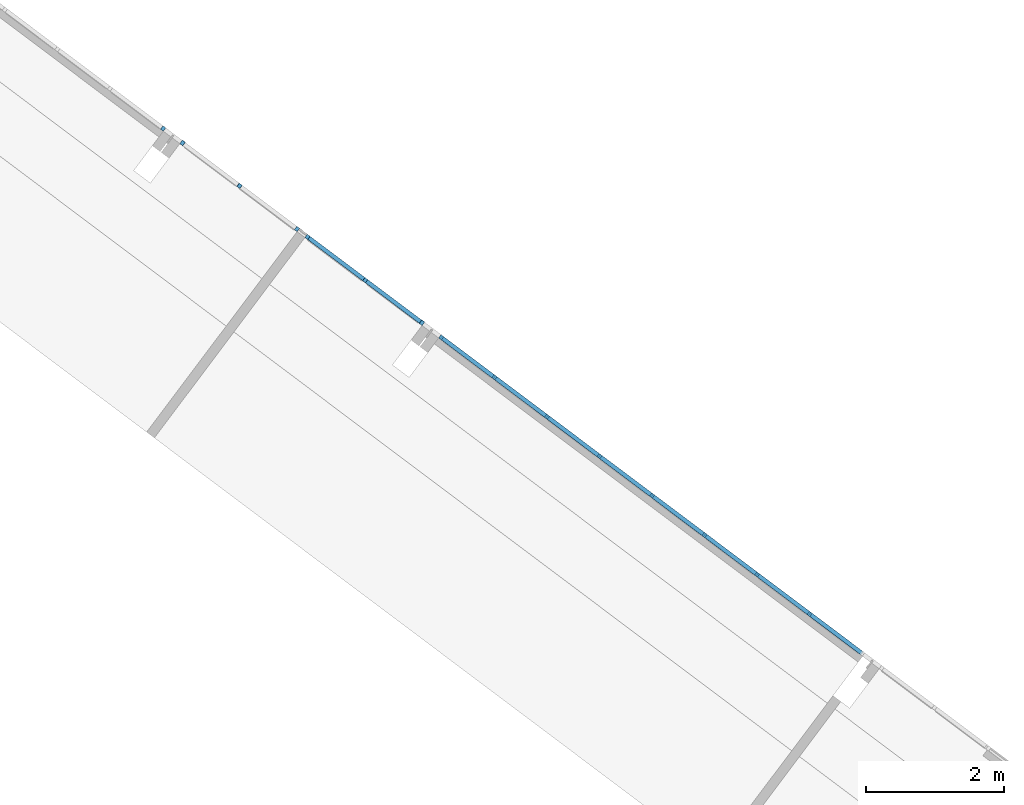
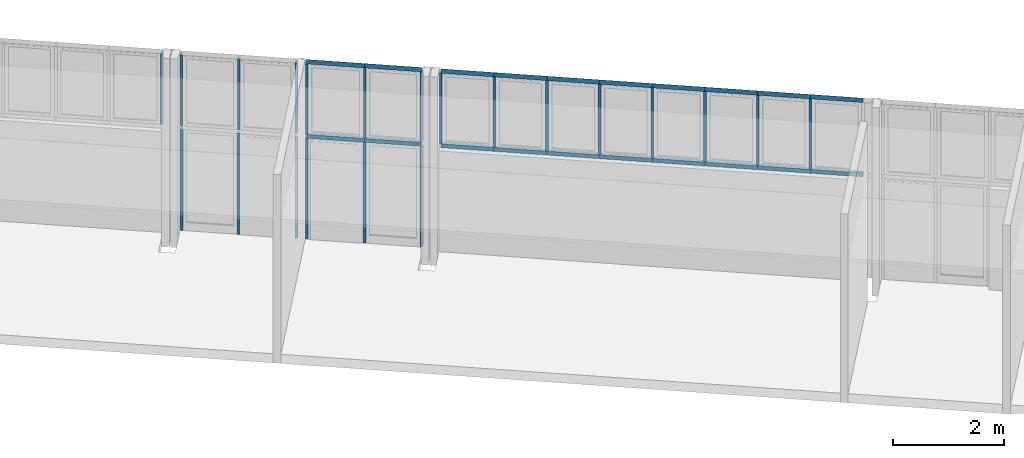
# One storey, part 1 of 18: 41 members, 3 elements without a shape of their own.
"""IFC2X3 building model written with IfcOpenShell, lengths in metres."""

from ifc_helpers import new_model, entity, si_unit, converted_unit, derived_unit, direction, frame, frame_2d, origin, origin_2d_with_axis, place, context, subcontext, project, spatial, polyline, rectangle, outline, extrude, source, transform, mapped, material, type_object, type_shapes, element, aggregate, save


model = new_model("IFC2X3")

# Units and contexts
model_context = context("Model", 3, precision=1e-05, world=origin(), true_north=direction((6.123031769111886e-17, 1.0)))
body_context = subcontext(model_context, "Body", "Model", "MODEL_VIEW")
ifc_project = project(units=[si_unit("LENGTHUNIT", "METRE"), si_unit("AREAUNIT", "SQUARE_METRE"), si_unit("VOLUMEUNIT", "CUBIC_METRE"), converted_unit("PLANEANGLEUNIT", "DEGREE", entity("IfcRatioMeasure", 0.017453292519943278), si_unit("PLANEANGLEUNIT", "RADIAN"), dimensions=[0, 0, 0, 0, 0, 0, 0]), si_unit("MASSUNIT", "GRAM", prefix="KILO"), derived_unit("MASSDENSITYUNIT", [(si_unit("MASSUNIT", "GRAM", prefix="KILO"), 1), (si_unit("LENGTHUNIT", "METRE"), -3)]), derived_unit("IONCONCENTRATIONUNIT", [(si_unit("MASSUNIT", "GRAM", prefix="KILO"), 1), (si_unit("LENGTHUNIT", "METRE"), -3)]), derived_unit("MOMENTOFINERTIAUNIT", [(si_unit("LENGTHUNIT", "METRE"), 4)]), si_unit("TIMEUNIT", "SECOND"), si_unit("FREQUENCYUNIT", "HERTZ"), si_unit("THERMODYNAMICTEMPERATUREUNIT", "DEGREE_CELSIUS"), derived_unit("THERMALTRANSMITTANCEUNIT", [(si_unit("MASSUNIT", "GRAM", prefix="KILO"), 1), (si_unit("THERMODYNAMICTEMPERATUREUNIT", "KELVIN"), -1), (si_unit("TIMEUNIT", "SECOND"), -3)]), derived_unit("THERMALCONDUCTANCEUNIT", [(si_unit("MASSUNIT", "GRAM", prefix="KILO"), 1), (si_unit("THERMODYNAMICTEMPERATUREUNIT", "KELVIN"), -1), (si_unit("TIMEUNIT", "SECOND"), -3), (si_unit("LENGTHUNIT", "METRE"), 1)]), derived_unit("VOLUMETRICFLOWRATEUNIT", [(si_unit("LENGTHUNIT", "METRE"), 3), (si_unit("TIMEUNIT", "SECOND"), -1)]), derived_unit("MASSFLOWRATEUNIT", [(si_unit("MASSUNIT", "GRAM", prefix="KILO"), 1), (si_unit("TIMEUNIT", "SECOND"), -1)]), derived_unit("ROTATIONALFREQUENCYUNIT", [(si_unit("TIMEUNIT", "SECOND"), -1)]), si_unit("ELECTRICCURRENTUNIT", "AMPERE"), si_unit("ELECTRICVOLTAGEUNIT", "VOLT"), si_unit("POWERUNIT", "WATT"), si_unit("FORCEUNIT", "NEWTON", prefix="KILO"), si_unit("ILLUMINANCEUNIT", "LUX"), si_unit("LUMINOUSFLUXUNIT", "LUMEN"), si_unit("LUMINOUSINTENSITYUNIT", "CANDELA"), derived_unit("USERDEFINED", [(si_unit("MASSUNIT", "GRAM", prefix="KILO"), -1), (si_unit("LENGTHUNIT", "METRE"), -2), (si_unit("TIMEUNIT", "SECOND"), 3), (si_unit("LUMINOUSFLUXUNIT", "LUMEN"), 1)]), derived_unit("USERDEFINED", [(si_unit("MASSUNIT", "GRAM", prefix="KILO"), 1), (si_unit("TIMEUNIT", "SECOND"), -3), (si_unit("LENGTHUNIT", "METRE"), 3), (si_unit("ELECTRICCURRENTUNIT", "AMPERE"), -2)]), derived_unit("SOUNDPOWERUNIT", [(si_unit("MASSUNIT", "GRAM", prefix="KILO"), 1), (si_unit("TIMEUNIT", "SECOND"), -3), (si_unit("LENGTHUNIT", "METRE"), 2)]), derived_unit("SOUNDPRESSUREUNIT", [(si_unit("MASSUNIT", "GRAM", prefix="KILO"), 1), (si_unit("LENGTHUNIT", "METRE"), -1), (si_unit("TIMEUNIT", "SECOND"), -2)]), derived_unit("LINEARVELOCITYUNIT", [(si_unit("LENGTHUNIT", "METRE"), 1), (si_unit("TIMEUNIT", "SECOND"), -1)]), si_unit("PRESSUREUNIT", "PASCAL"), derived_unit("USERDEFINED", [(si_unit("MASSUNIT", "GRAM", prefix="KILO"), 1), (si_unit("LENGTHUNIT", "METRE"), -2), (si_unit("TIMEUNIT", "SECOND"), -2)]), derived_unit("LINEARFORCEUNIT", [(si_unit("MASSUNIT", "GRAM", prefix="KILO"), 1), (si_unit("TIMEUNIT", "SECOND"), -2)]), derived_unit("PLANARFORCEUNIT", [(si_unit("MASSUNIT", "GRAM", prefix="KILO"), 1), (si_unit("LENGTHUNIT", "METRE"), -1), (si_unit("TIMEUNIT", "SECOND"), -2)]), derived_unit("SPECIFICHEATCAPACITYUNIT", [(si_unit("THERMODYNAMICTEMPERATUREUNIT", "KELVIN"), -1), (si_unit("LENGTHUNIT", "METRE"), 2), (si_unit("TIMEUNIT", "SECOND"), -2)]), derived_unit("HEATINGVALUEUNIT", [(si_unit("LENGTHUNIT", "METRE"), 2), (si_unit("TIMEUNIT", "SECOND"), -2)]), derived_unit("VAPORPERMEABILITYUNIT", [(si_unit("LENGTHUNIT", "METRE"), -1), (si_unit("TIMEUNIT", "SECOND"), 1)]), derived_unit("DYNAMICVISCOSITYUNIT", [(si_unit("MASSUNIT", "GRAM", prefix="KILO"), 1), (si_unit("TIMEUNIT", "SECOND"), -1), (si_unit("LENGTHUNIT", "METRE"), -1)]), derived_unit("THERMALEXPANSIONCOEFFICIENTUNIT", [(si_unit("THERMODYNAMICTEMPERATUREUNIT", "KELVIN"), -1)]), derived_unit("MODULUSOFELASTICITYUNIT", [(si_unit("MASSUNIT", "GRAM", prefix="KILO"), 1), (si_unit("LENGTHUNIT", "METRE"), -1), (si_unit("TIMEUNIT", "SECOND"), -2)]), derived_unit("ISOTHERMALMOISTURECAPACITYUNIT", [(si_unit("LENGTHUNIT", "METRE"), 3), (si_unit("MASSUNIT", "GRAM", prefix="KILO"), -1)]), derived_unit("MOISTUREDIFFUSIVITYUNIT", [(si_unit("TIMEUNIT", "SECOND"), -1), (si_unit("LENGTHUNIT", "METRE"), 2)])], contexts=[model_context])

# Site, building, storey
site_placement = place(None, frame((0.0, 0.0, 235.0), z_axis=(0.0, 0.0, 1.0), x_axis=(-0.7996477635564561, 0.6004693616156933, 0.0)))
site = spatial("IfcSite", under=ifc_project, at=site_placement, Name="Default", CompositionType="ELEMENT")
building_placement = place(site_placement, origin())
building = spatial("IfcBuilding", under=site, at=building_placement, CompositionType="ELEMENT")
storey_placement = place(building_placement, frame((0.0, 0.0, -4.459999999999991)))
storey = spatial("IfcBuildingStorey", under=building, at=storey_placement, Name="PS1- Vestuari", CompositionType="ELEMENT", Elevation=-4.459999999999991)

# Curtain wall, members
curtain_wall_type = type_object("IfcCurtainWallType", Name="Muro cortina:MC- EXT- AL6", PredefinedType="NOTDEFINED")
curtain_wall_1_placement = place(storey_placement, frame((0.0, 0.0, 4.459999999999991)))
curtain_wall_1 = element("IfcCurtainWall", 1, at=curtain_wall_1_placement, inside=storey, type_object=curtain_wall_type, Name="Muro cortina:MC- EXT- AL6", ObjectType="Muro cortina:MC- EXT- AL6")
ifc_material = material(Name="_Alumini- T1- Perfil")
member_type_1 = type_object("IfcMemberType", Name="Montante rectangular:MC- Alu- 52x80 cm- Fa pista- inferior", PredefinedType="MULLION", material=ifc_material)
shared_shape_1 = source(origin(), body_context, "Body", "SweptSolid", [
    extrude(rectangle(XDim=0.06000000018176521, YDim=0.085, at=origin_2d_with_axis()), frame((-0.0425, -0.030000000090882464, -0.9539999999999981), z_axis=(0.0, 0.0, 1.0), x_axis=(0.0, -1.0, 0.0)), (0.0, 0.0, 1.0), 0.9539999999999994),
])
type_shapes(member_type_1, [shared_shape_1])
member_1_placement = place(curtain_wall_1_placement, frame((59.800147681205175, -40.46519175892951, -2.249999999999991), z_axis=(-1.0, 0.0, 0.0), x_axis=(0.0, 0.0, -1.0)))
member_1 = element("IfcMember", 2, at=member_1_placement, type_object=member_type_1, material=ifc_material, Name="Montante rectangular:MC- Alu- 52x80 cm- Fa pista- inferior", ObjectType="Montante rectangular:MC- Alu- 52x80 cm- Fa pista- inferior", context=body_context, shape_type="MappedRepresentation", body=[
    mapped(shared_shape_1, transform((0.0, 0.0, 0.0), scale=1.0)),
])
member_2_placement = place(curtain_wall_1_placement, frame((58.84614768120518, -40.465191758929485, -2.249999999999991), z_axis=(-1.0, 0.0, 0.0), x_axis=(0.0, 0.0, -1.0)))
member_2 = element("IfcMember", 3, at=member_2_placement, type_object=member_type_1, material=ifc_material, Name="Montante rectangular:MC- Alu- 52x80 cm- Fa pista- inferior", ObjectType="Montante rectangular:MC- Alu- 52x80 cm- Fa pista- inferior", context=body_context, shape_type="MappedRepresentation", body=[
    mapped(shared_shape_1, transform((0.0, 0.0, 0.0), scale=1.0)),
])
member_3_placement = place(curtain_wall_1_placement, frame((57.89214768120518, -40.46519175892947, -2.249999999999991), z_axis=(-1.0, 0.0, 0.0), x_axis=(0.0, 0.0, -1.0)))
member_3 = element("IfcMember", 4, at=member_3_placement, type_object=member_type_1, material=ifc_material, Name="Montante rectangular:MC- Alu- 52x80 cm- Fa pista- inferior", ObjectType="Montante rectangular:MC- Alu- 52x80 cm- Fa pista- inferior", context=body_context, shape_type="MappedRepresentation", body=[
    mapped(shared_shape_1, transform((0.0, 0.0, 0.0), scale=1.0)),
])
member_4_placement = place(curtain_wall_1_placement, frame((56.93814768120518, -40.46519175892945, -2.249999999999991), z_axis=(-1.0, 0.0, 0.0), x_axis=(0.0, 0.0, -1.0)))
member_4 = element("IfcMember", 5, at=member_4_placement, type_object=member_type_1, material=ifc_material, Name="Montante rectangular:MC- Alu- 52x80 cm- Fa pista- inferior", ObjectType="Montante rectangular:MC- Alu- 52x80 cm- Fa pista- inferior", context=body_context, shape_type="MappedRepresentation", body=[
    mapped(shared_shape_1, transform((0.0, 0.0, 0.0), scale=1.0)),
])
member_5_placement = place(curtain_wall_1_placement, frame((55.98414768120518, -40.465191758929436, -2.249999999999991), z_axis=(-1.0, 0.0, 0.0), x_axis=(0.0, 0.0, -1.0)))
member_5 = element("IfcMember", 6, at=member_5_placement, type_object=member_type_1, material=ifc_material, Name="Montante rectangular:MC- Alu- 52x80 cm- Fa pista- inferior", ObjectType="Montante rectangular:MC- Alu- 52x80 cm- Fa pista- inferior", context=body_context, shape_type="MappedRepresentation", body=[
    mapped(shared_shape_1, transform((0.0, 0.0, 0.0), scale=1.0)),
])
member_6_placement = place(curtain_wall_1_placement, frame((55.03014768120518, -40.46519175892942, -2.249999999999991), z_axis=(-1.0, 0.0, 0.0), x_axis=(0.0, 0.0, -1.0)))
member_6 = element("IfcMember", 7, at=member_6_placement, type_object=member_type_1, material=ifc_material, Name="Montante rectangular:MC- Alu- 52x80 cm- Fa pista- inferior", ObjectType="Montante rectangular:MC- Alu- 52x80 cm- Fa pista- inferior", context=body_context, shape_type="MappedRepresentation", body=[
    mapped(shared_shape_1, transform((0.0, 0.0, 0.0), scale=1.0)),
])
member_7_placement = place(curtain_wall_1_placement, frame((54.07614768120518, -40.4651917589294, -2.249999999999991), z_axis=(-1.0, 0.0, 0.0), x_axis=(0.0, 0.0, -1.0)))
member_7 = element("IfcMember", 8, at=member_7_placement, type_object=member_type_1, material=ifc_material, Name="Montante rectangular:MC- Alu- 52x80 cm- Fa pista- inferior", ObjectType="Montante rectangular:MC- Alu- 52x80 cm- Fa pista- inferior", context=body_context, shape_type="MappedRepresentation", body=[
    mapped(shared_shape_1, transform((0.0, 0.0, 0.0), scale=1.0)),
])
member_type_2 = type_object("IfcMemberType", Name="Montante rectangular:MC- Alu- 50x60 cm- Fa pista- Centre", PredefinedType="MULLION", material=ifc_material)
shared_shape_2 = source(origin(), body_context, "Body", "SweptSolid", [
    extrude(rectangle(XDim=0.0600000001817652, YDim=0.05, at=frame_2d((8.673617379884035e-18, 0.0), x_axis=(1.0, 0.0))), frame((0.0, -0.030000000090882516, -1.5474999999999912), z_axis=(0.0, 0.0, 1.0), x_axis=(0.0, -1.0, 0.0)), (0.0, 0.0, 1.0), 1.5474999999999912),
])
type_shapes(member_type_2, [shared_shape_2])
member_8_placement = place(curtain_wall_1_placement, frame((65.38014768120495, -40.465191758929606, -2.164999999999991), z_axis=(0.0, 0.0, -1.0), x_axis=(1.0, 0.0, 0.0)))
member_8 = element("IfcMember", 9, at=member_8_placement, type_object=member_type_2, material=ifc_material, Name="Montante rectangular:MC- Alu- 50x60 cm- Fa pista- Centre", ObjectType="Montante rectangular:MC- Alu- 50x60 cm- Fa pista- Centre", context=body_context, shape_type="MappedRepresentation", body=[
    mapped(shared_shape_2, transform((0.0, 0.0, 0.0), scale=1.0)),
])
member_9_placement = place(curtain_wall_1_placement, frame((64.34014768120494, -40.46519175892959, -2.164999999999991), z_axis=(0.0, 0.0, -1.0), x_axis=(1.0, 0.0, 0.0)))
member_9 = element("IfcMember", 10, at=member_9_placement, type_object=member_type_2, material=ifc_material, Name="Montante rectangular:MC- Alu- 50x60 cm- Fa pista- Centre", ObjectType="Montante rectangular:MC- Alu- 50x60 cm- Fa pista- Centre", context=body_context, shape_type="MappedRepresentation", body=[
    mapped(shared_shape_2, transform((0.0, 0.0, 0.0), scale=1.0)),
])
member_10_placement = place(curtain_wall_1_placement, frame((64.15014768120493, -40.465191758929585, -2.164999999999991), z_axis=(0.0, 0.0, -1.0), x_axis=(1.0, 0.0, 0.0)))
member_10 = element("IfcMember", 11, at=member_10_placement, type_object=member_type_2, material=ifc_material, Name="Montante rectangular:MC- Alu- 50x60 cm- Fa pista- Centre", ObjectType="Montante rectangular:MC- Alu- 50x60 cm- Fa pista- Centre", context=body_context, shape_type="MappedRepresentation", body=[
    mapped(shared_shape_2, transform((0.0, 0.0, 0.0), scale=1.0)),
])
member_11_placement = place(curtain_wall_1_placement, frame((63.10014768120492, -40.46519175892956, -2.164999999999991), z_axis=(0.0, 0.0, -1.0), x_axis=(1.0, 0.0, 0.0)))
member_11 = element("IfcMember", 12, at=member_11_placement, type_object=member_type_2, material=ifc_material, Name="Montante rectangular:MC- Alu- 50x60 cm- Fa pista- Centre", ObjectType="Montante rectangular:MC- Alu- 50x60 cm- Fa pista- Centre", context=body_context, shape_type="MappedRepresentation", body=[
    mapped(shared_shape_2, transform((0.0, 0.0, 0.0), scale=1.0)),
])
member_12_placement = place(curtain_wall_1_placement, frame((62.07014768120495, -40.46519175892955, -2.164999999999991), z_axis=(0.0, 0.0, -1.0), x_axis=(1.0, 0.0, 0.0)))
member_12 = element("IfcMember", 13, at=member_12_placement, type_object=member_type_2, material=ifc_material, Name="Montante rectangular:MC- Alu- 50x60 cm- Fa pista- Centre", ObjectType="Montante rectangular:MC- Alu- 50x60 cm- Fa pista- Centre", context=body_context, shape_type="MappedRepresentation", body=[
    mapped(shared_shape_2, transform((0.0, 0.0, 0.0), scale=1.0)),
])
member_13_placement = place(curtain_wall_1_placement, frame((61.720147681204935, -40.46519175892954, -2.164999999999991), z_axis=(0.0, 0.0, -1.0), x_axis=(1.0, 0.0, 0.0)))
member_13 = element("IfcMember", 14, at=member_13_placement, type_object=member_type_2, material=ifc_material, Name="Montante rectangular:MC- Alu- 50x60 cm- Fa pista- Centre", ObjectType="Montante rectangular:MC- Alu- 50x60 cm- Fa pista- Centre", context=body_context, shape_type="MappedRepresentation", body=[
    mapped(shared_shape_2, transform((0.0, 0.0, 0.0), scale=1.0)),
])
member_14_placement = place(curtain_wall_1_placement, frame((60.754147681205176, -40.46519175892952, -2.164999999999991), z_axis=(0.0, 0.0, -1.0), x_axis=(1.0, 0.0, 0.0)))
member_14 = element("IfcMember", 15, at=member_14_placement, type_object=member_type_2, material=ifc_material, Name="Montante rectangular:MC- Alu- 50x60 cm- Fa pista- Centre", ObjectType="Montante rectangular:MC- Alu- 50x60 cm- Fa pista- Centre", context=body_context, shape_type="MappedRepresentation", body=[
    mapped(shared_shape_2, transform((0.0, 0.0, 0.0), scale=1.0)),
])
member_15_placement = place(curtain_wall_1_placement, frame((59.800147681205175, -40.46519175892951, -2.164999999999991), z_axis=(0.0, 0.0, -1.0), x_axis=(1.0, 0.0, 0.0)))
member_15 = element("IfcMember", 16, at=member_15_placement, type_object=member_type_2, material=ifc_material, Name="Montante rectangular:MC- Alu- 50x60 cm- Fa pista- Centre", ObjectType="Montante rectangular:MC- Alu- 50x60 cm- Fa pista- Centre", context=body_context, shape_type="MappedRepresentation", body=[
    mapped(shared_shape_2, transform((0.0, 0.0, 0.0), scale=1.0)),
])
member_16_placement = place(curtain_wall_1_placement, frame((58.84614768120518, -40.465191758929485, -2.164999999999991), z_axis=(0.0, 0.0, -1.0), x_axis=(1.0, 0.0, 0.0)))
member_16 = element("IfcMember", 17, at=member_16_placement, type_object=member_type_2, material=ifc_material, Name="Montante rectangular:MC- Alu- 50x60 cm- Fa pista- Centre", ObjectType="Montante rectangular:MC- Alu- 50x60 cm- Fa pista- Centre", context=body_context, shape_type="MappedRepresentation", body=[
    mapped(shared_shape_2, transform((0.0, 0.0, 0.0), scale=1.0)),
])
member_17_placement = place(curtain_wall_1_placement, frame((57.89214768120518, -40.46519175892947, -2.164999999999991), z_axis=(0.0, 0.0, -1.0), x_axis=(1.0, 0.0, 0.0)))
member_17 = element("IfcMember", 18, at=member_17_placement, type_object=member_type_2, material=ifc_material, Name="Montante rectangular:MC- Alu- 50x60 cm- Fa pista- Centre", ObjectType="Montante rectangular:MC- Alu- 50x60 cm- Fa pista- Centre", context=body_context, shape_type="MappedRepresentation", body=[
    mapped(shared_shape_2, transform((0.0, 0.0, 0.0), scale=1.0)),
])
member_18_placement = place(curtain_wall_1_placement, frame((56.93814768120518, -40.46519175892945, -2.164999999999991), z_axis=(0.0, 0.0, -1.0), x_axis=(1.0, 0.0, 0.0)))
member_18 = element("IfcMember", 19, at=member_18_placement, type_object=member_type_2, material=ifc_material, Name="Montante rectangular:MC- Alu- 50x60 cm- Fa pista- Centre", ObjectType="Montante rectangular:MC- Alu- 50x60 cm- Fa pista- Centre", context=body_context, shape_type="MappedRepresentation", body=[
    mapped(shared_shape_2, transform((0.0, 0.0, 0.0), scale=1.0)),
])
member_19_placement = place(curtain_wall_1_placement, frame((55.98414768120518, -40.465191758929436, -2.164999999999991), z_axis=(0.0, 0.0, -1.0), x_axis=(1.0, 0.0, 0.0)))
member_19 = element("IfcMember", 20, at=member_19_placement, type_object=member_type_2, material=ifc_material, Name="Montante rectangular:MC- Alu- 50x60 cm- Fa pista- Centre", ObjectType="Montante rectangular:MC- Alu- 50x60 cm- Fa pista- Centre", context=body_context, shape_type="MappedRepresentation", body=[
    mapped(shared_shape_2, transform((0.0, 0.0, 0.0), scale=1.0)),
])
member_20_placement = place(curtain_wall_1_placement, frame((55.03014768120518, -40.46519175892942, -2.164999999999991), z_axis=(0.0, 0.0, -1.0), x_axis=(1.0, 0.0, 0.0)))
member_20 = element("IfcMember", 21, at=member_20_placement, type_object=member_type_2, material=ifc_material, Name="Montante rectangular:MC- Alu- 50x60 cm- Fa pista- Centre", ObjectType="Montante rectangular:MC- Alu- 50x60 cm- Fa pista- Centre", context=body_context, shape_type="MappedRepresentation", body=[
    mapped(shared_shape_2, transform((0.0, 0.0, 0.0), scale=1.0)),
])
member_21_placement = place(curtain_wall_1_placement, frame((66.42014768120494, -40.46519175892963, -2.164999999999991), z_axis=(0.0, 0.0, -1.0), x_axis=(1.0, 0.0, 0.0)))
member_21 = element("IfcMember", 22, at=member_21_placement, type_object=member_type_2, material=ifc_material, Name="Montante rectangular:MC- Alu- 50x60 cm- Fa pista- Centre", ObjectType="Montante rectangular:MC- Alu- 50x60 cm- Fa pista- Centre", context=body_context, shape_type="MappedRepresentation", body=[
    mapped(shared_shape_2, transform((0.0, 0.0, 0.0), scale=1.0)),
])
member_22_placement = place(curtain_wall_1_placement, frame((66.77014768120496, -40.465191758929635, -2.164999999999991), z_axis=(0.0, 0.0, -1.0), x_axis=(1.0, 0.0, 0.0)))
member_22 = element("IfcMember", 23, at=member_22_placement, type_object=member_type_2, material=ifc_material, Name="Montante rectangular:MC- Alu- 50x60 cm- Fa pista- Centre", ObjectType="Montante rectangular:MC- Alu- 50x60 cm- Fa pista- Centre", context=body_context, shape_type="MappedRepresentation", body=[
    mapped(shared_shape_2, transform((0.0, 0.0, 0.0), scale=1.0)),
])
member_type_3 = type_object("IfcMemberType", Name="Montante rectangular:MC- Alu- 140x52,5 cm- Fa pista- Superior", PredefinedType="MULLION", material=ifc_material)
shared_shape_3 = source(origin(), body_context, "Body", "SweptSolid", [
    extrude(outline(polyline([(-0.03933333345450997, -0.04916666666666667), (0.02066666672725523, -0.04916666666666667), (0.020666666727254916, 0.048333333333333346), (0.018666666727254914, 0.04833333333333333), (0.018666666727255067, 0.00083333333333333), (-0.03933333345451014, 0.00083333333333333), (-0.03933333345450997, -0.04916666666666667)])), frame((-0.048333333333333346, -0.03933333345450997, -0.9540000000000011), z_axis=(0.0, 0.0, 1.0), x_axis=(0.0, -1.0, 0.0)), (0.0, 0.0, 1.0), 0.9539999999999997),
])
type_shapes(member_type_3, [shared_shape_3])
member_23_placement = place(curtain_wall_1_placement, frame((60.754147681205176, -40.46519175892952, -0.52), z_axis=(1.0, 0.0, 0.0), x_axis=(0.0, 0.0, 1.0)))
member_23 = element("IfcMember", 24, at=member_23_placement, type_object=member_type_3, material=ifc_material, Name="Montante rectangular:MC- Alu- 140x52,5 cm- Fa pista- Superior", ObjectType="Montante rectangular:MC- Alu- 140x52,5 cm- Fa pista- Superior", context=body_context, shape_type="MappedRepresentation", body=[
    mapped(shared_shape_3, transform((0.0, 0.0, 0.0), scale=1.0)),
])
member_24_placement = place(curtain_wall_1_placement, frame((59.800147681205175, -40.46519175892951, -0.52), z_axis=(1.0, 0.0, 0.0), x_axis=(0.0, 0.0, 1.0)))
member_24 = element("IfcMember", 25, at=member_24_placement, type_object=member_type_3, material=ifc_material, Name="Montante rectangular:MC- Alu- 140x52,5 cm- Fa pista- Superior", ObjectType="Montante rectangular:MC- Alu- 140x52,5 cm- Fa pista- Superior", context=body_context, shape_type="MappedRepresentation", body=[
    mapped(shared_shape_3, transform((0.0, 0.0, 0.0), scale=1.0)),
])
member_25_placement = place(curtain_wall_1_placement, frame((58.84614768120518, -40.465191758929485, -0.52), z_axis=(1.0, 0.0, 0.0), x_axis=(0.0, 0.0, 1.0)))
member_25 = element("IfcMember", 26, at=member_25_placement, type_object=member_type_3, material=ifc_material, Name="Montante rectangular:MC- Alu- 140x52,5 cm- Fa pista- Superior", ObjectType="Montante rectangular:MC- Alu- 140x52,5 cm- Fa pista- Superior", context=body_context, shape_type="MappedRepresentation", body=[
    mapped(shared_shape_3, transform((0.0, 0.0, 0.0), scale=1.0)),
])
member_26_placement = place(curtain_wall_1_placement, frame((57.89214768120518, -40.46519175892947, -0.52), z_axis=(1.0, 0.0, 0.0), x_axis=(0.0, 0.0, 1.0)))
member_26 = element("IfcMember", 27, at=member_26_placement, type_object=member_type_3, material=ifc_material, Name="Montante rectangular:MC- Alu- 140x52,5 cm- Fa pista- Superior", ObjectType="Montante rectangular:MC- Alu- 140x52,5 cm- Fa pista- Superior", context=body_context, shape_type="MappedRepresentation", body=[
    mapped(shared_shape_3, transform((0.0, 0.0, 0.0), scale=1.0)),
])
member_27_placement = place(curtain_wall_1_placement, frame((56.93814768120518, -40.46519175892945, -0.52), z_axis=(1.0, 0.0, 0.0), x_axis=(0.0, 0.0, 1.0)))
member_27 = element("IfcMember", 28, at=member_27_placement, type_object=member_type_3, material=ifc_material, Name="Montante rectangular:MC- Alu- 140x52,5 cm- Fa pista- Superior", ObjectType="Montante rectangular:MC- Alu- 140x52,5 cm- Fa pista- Superior", context=body_context, shape_type="MappedRepresentation", body=[
    mapped(shared_shape_3, transform((0.0, 0.0, 0.0), scale=1.0)),
])
member_28_placement = place(curtain_wall_1_placement, frame((55.98414768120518, -40.465191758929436, -0.52), z_axis=(1.0, 0.0, 0.0), x_axis=(0.0, 0.0, 1.0)))
member_28 = element("IfcMember", 29, at=member_28_placement, type_object=member_type_3, material=ifc_material, Name="Montante rectangular:MC- Alu- 140x52,5 cm- Fa pista- Superior", ObjectType="Montante rectangular:MC- Alu- 140x52,5 cm- Fa pista- Superior", context=body_context, shape_type="MappedRepresentation", body=[
    mapped(shared_shape_3, transform((0.0, 0.0, 0.0), scale=1.0)),
])
member_29_placement = place(curtain_wall_1_placement, frame((55.03014768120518, -40.46519175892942, -0.52), z_axis=(1.0, 0.0, 0.0), x_axis=(0.0, 0.0, 1.0)))
member_29 = element("IfcMember", 30, at=member_29_placement, type_object=member_type_3, material=ifc_material, Name="Montante rectangular:MC- Alu- 140x52,5 cm- Fa pista- Superior", ObjectType="Montante rectangular:MC- Alu- 140x52,5 cm- Fa pista- Superior", context=body_context, shape_type="MappedRepresentation", body=[
    mapped(shared_shape_3, transform((0.0, 0.0, 0.0), scale=1.0)),
])
member_type_4 = type_object("IfcMemberType", Name="Montante rectangular:MC- Alu- 140x52,5 cm- Fa pista- Superior", PredefinedType="MULLION", material=ifc_material)
shared_shape_4 = source(origin(), body_context, "Body", "SweptSolid", [
    extrude(outline(polyline([(-0.03933333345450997, -0.04916666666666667), (0.02066666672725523, -0.04916666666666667), (0.020666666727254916, 0.048333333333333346), (0.018666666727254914, 0.04833333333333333), (0.018666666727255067, 0.00083333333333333), (-0.03933333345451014, 0.00083333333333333), (-0.03933333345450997, -0.04916666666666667)])), frame((-0.048333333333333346, -0.03933333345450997, -1.0500000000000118), z_axis=(0.0, 0.0, 1.0), x_axis=(0.0, -1.0, 0.0)), (0.0, 0.0, 1.0), 1.0500000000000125),
])
type_shapes(member_type_4, [shared_shape_4])
member_30_placement = place(curtain_wall_1_placement, frame((64.15014768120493, -40.465191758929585, -0.52), z_axis=(1.0, 0.0, 0.0), x_axis=(0.0, 0.0, 1.0)))
member_30 = element("IfcMember", 31, at=member_30_placement, type_object=member_type_4, material=ifc_material, Name="Montante rectangular:MC- Alu- 140x52,5 cm- Fa pista- Superior", ObjectType="Montante rectangular:MC- Alu- 140x52,5 cm- Fa pista- Superior", context=body_context, shape_type="MappedRepresentation", body=[
    mapped(shared_shape_4, transform((0.0, 0.0, 0.0), scale=1.0)),
])
member_type_5 = type_object("IfcMemberType", Name="Montante rectangular:MC- Alu- 52x80 cm- Fa pista- inferior", PredefinedType="MULLION", material=ifc_material)
shared_shape_5 = source(origin(), body_context, "Body", "SweptSolid", [
    extrude(rectangle(XDim=0.06000000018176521, YDim=0.085, at=origin_2d_with_axis()), frame((-0.0425, -0.030000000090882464, -1.0500000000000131), z_axis=(0.0, 0.0, 1.0), x_axis=(0.0, -1.0, 0.0)), (0.0, 0.0, 1.0), 1.0500000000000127),
])
type_shapes(member_type_5, [shared_shape_5])
member_31_placement = place(curtain_wall_1_placement, frame((63.10014768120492, -40.46519175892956, -2.249999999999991), z_axis=(-1.0, 0.0, 0.0), x_axis=(0.0, 0.0, -1.0)))
member_31 = element("IfcMember", 32, at=member_31_placement, type_object=member_type_5, material=ifc_material, Name="Montante rectangular:MC- Alu- 52x80 cm- Fa pista- inferior", ObjectType="Montante rectangular:MC- Alu- 52x80 cm- Fa pista- inferior", context=body_context, shape_type="MappedRepresentation", body=[
    mapped(shared_shape_5, transform((0.0, 0.0, 0.0), scale=1.0)),
])
member_type_6 = type_object("IfcMemberType", Name="Montante rectangular:MC- Alu- 140x52,5 cm- Fa pista- Superior", PredefinedType="MULLION", material=ifc_material)
shared_shape_6 = source(origin(), body_context, "Body", "SweptSolid", [
    extrude(outline(polyline([(-0.03933333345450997, -0.04916666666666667), (0.02066666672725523, -0.04916666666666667), (0.020666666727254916, 0.048333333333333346), (0.018666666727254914, 0.04833333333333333), (0.018666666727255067, 0.00083333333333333), (-0.03933333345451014, 0.00083333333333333), (-0.03933333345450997, -0.04916666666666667)])), frame((-0.048333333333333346, -0.03933333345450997, -1.0299999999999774), z_axis=(0.0, 0.0, 1.0), x_axis=(0.0, -1.0, 0.0)), (0.0, 0.0, 1.0), 1.0299999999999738),
])
type_shapes(member_type_6, [shared_shape_6])
member_32_placement = place(curtain_wall_1_placement, frame((63.10014768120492, -40.46519175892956, -0.52), z_axis=(1.0, 0.0, 0.0), x_axis=(0.0, 0.0, 1.0)))
member_32 = element("IfcMember", 33, at=member_32_placement, type_object=member_type_6, material=ifc_material, Name="Montante rectangular:MC- Alu- 140x52,5 cm- Fa pista- Superior", ObjectType="Montante rectangular:MC- Alu- 140x52,5 cm- Fa pista- Superior", context=body_context, shape_type="MappedRepresentation", body=[
    mapped(shared_shape_6, transform((0.0, 0.0, 0.0), scale=1.0)),
])
member_type_7 = type_object("IfcMemberType", Name="Montante rectangular:MC- Alu- 52x80 cm- Fa pista- inferior", PredefinedType="MULLION", material=ifc_material)
shared_shape_7 = source(origin(), body_context, "Body", "SweptSolid", [
    extrude(rectangle(XDim=0.06000000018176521, YDim=0.085, at=origin_2d_with_axis()), frame((-0.0425, -0.030000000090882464, -1.0299999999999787), z_axis=(0.0, 0.0, 1.0), x_axis=(0.0, -1.0, 0.0)), (0.0, 0.0, 1.0), 1.0299999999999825),
])
type_shapes(member_type_7, [shared_shape_7])
member_33_placement = place(curtain_wall_1_placement, frame((62.07014768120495, -40.46519175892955, -2.249999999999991), z_axis=(-1.0, 0.0, 0.0), x_axis=(0.0, 0.0, -1.0)))
member_33 = element("IfcMember", 34, at=member_33_placement, type_object=member_type_7, material=ifc_material, Name="Montante rectangular:MC- Alu- 52x80 cm- Fa pista- inferior", ObjectType="Montante rectangular:MC- Alu- 52x80 cm- Fa pista- inferior", context=body_context, shape_type="MappedRepresentation", body=[
    mapped(shared_shape_7, transform((0.0, 0.0, 0.0), scale=1.0)),
])
member_type_8 = type_object("IfcMemberType", Name="Montante rectangular:MC- Alu- 140x52,5 cm- Fa pista- Superior", PredefinedType="MULLION", material=ifc_material)
shared_shape_8 = source(origin(), body_context, "Body", "SweptSolid", [
    extrude(outline(polyline([(-0.03933333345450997, -0.04916666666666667), (0.02066666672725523, -0.04916666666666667), (0.020666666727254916, 0.048333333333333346), (0.018666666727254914, 0.04833333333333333), (0.018666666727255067, 0.00083333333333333), (-0.03933333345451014, 0.00083333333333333), (-0.03933333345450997, -0.04916666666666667)])), frame((-0.048333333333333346, -0.03933333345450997, -0.9659999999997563), z_axis=(0.0, 0.0, 1.0), x_axis=(0.0, -1.0, 0.0)), (0.0, 0.0, 1.0), 0.9659999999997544),
])
type_shapes(member_type_8, [shared_shape_8])
member_34_placement = place(curtain_wall_1_placement, frame((61.720147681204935, -40.46519175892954, -0.52), z_axis=(1.0, 0.0, 0.0), x_axis=(0.0, 0.0, 1.0)))
member_34 = element("IfcMember", 35, at=member_34_placement, type_object=member_type_8, material=ifc_material, Name="Montante rectangular:MC- Alu- 140x52,5 cm- Fa pista- Superior", ObjectType="Montante rectangular:MC- Alu- 140x52,5 cm- Fa pista- Superior", context=body_context, shape_type="MappedRepresentation", body=[
    mapped(shared_shape_8, transform((0.0, 0.0, 0.0), scale=1.0)),
])
member_type_9 = type_object("IfcMemberType", Name="Montante rectangular:MC- Alu- 52x80 cm- Fa pista- inferior", PredefinedType="MULLION", material=ifc_material)
shared_shape_9 = source(origin(), body_context, "Body", "SweptSolid", [
    extrude(rectangle(XDim=0.06000000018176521, YDim=0.085, at=origin_2d_with_axis()), frame((-0.0425, -0.030000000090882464, -0.9659999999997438), z_axis=(0.0, 0.0, 1.0), x_axis=(0.0, -1.0, 0.0)), (0.0, 0.0, 1.0), 0.9659999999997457),
])
type_shapes(member_type_9, [shared_shape_9])
member_35_placement = place(curtain_wall_1_placement, frame((60.754147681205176, -40.46519175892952, -2.249999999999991), z_axis=(-1.0, 0.0, 0.0), x_axis=(0.0, 0.0, -1.0)))
member_35 = element("IfcMember", 36, at=member_35_placement, type_object=member_type_9, material=ifc_material, Name="Montante rectangular:MC- Alu- 52x80 cm- Fa pista- inferior", ObjectType="Montante rectangular:MC- Alu- 52x80 cm- Fa pista- inferior", context=body_context, shape_type="MappedRepresentation", body=[
    mapped(shared_shape_9, transform((0.0, 0.0, 0.0), scale=1.0)),
])
aggregate(curtain_wall_1, [member_8, member_9, member_10, member_30, member_31, member_32, member_11, member_33, member_12, member_34, member_13, member_35, member_23, member_14, member_1, member_24, member_15, member_2, member_25, member_16, member_3, member_26, member_17, member_4, member_27, member_18, member_5, member_28, member_19, member_6, member_29, member_20, member_7, member_21, member_22])

curtain_wall_2_placement = place(storey_placement, frame((0.0, 0.0, 4.459999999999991)))
curtain_wall_2 = element("IfcCurtainWall", 37, at=curtain_wall_2_placement, inside=storey, type_object=curtain_wall_type, Name="Muro cortina:MC- EXT- AL6", ObjectType="Muro cortina:MC- EXT- AL6")
member_type_10 = type_object("IfcMemberType", Name="Montante rectangular:Muntant53x 60 mm", PredefinedType="MULLION", material=ifc_material)
shared_shape_10 = source(origin(), body_context, "Body", "SweptSolid", [
    extrude(rectangle(XDim=0.06499994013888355, YDim=0.052999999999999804, at=frame_2d((-2.0816681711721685e-17, 3.469446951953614e-18), x_axis=(1.0, 0.0))), frame((-0.026499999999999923, 0.027499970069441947, -2.209941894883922), z_axis=(0.0, 0.0, 1.0), x_axis=(0.0, -1.0, 0.0)), (0.0, 0.0, 1.0), 2.209941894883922),
])
type_shapes(member_type_10, [shared_shape_10])
member_36_placement = place(curtain_wall_2_placement, frame((62.045147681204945, -40.465191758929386, -4.459999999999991), z_axis=(0.0, 0.0, -1.0), x_axis=(-1.0, 0.0, 0.0)))
member_36 = element("IfcMember", 38, at=member_36_placement, type_object=member_type_10, material=ifc_material, Name="Montante rectangular:Muntant53x 60 mm", ObjectType="Montante rectangular:Muntant53x 60 mm", context=body_context, shape_type="MappedRepresentation", body=[
    mapped(shared_shape_10, transform((0.0, 0.0, 0.0), scale=1.0)),
])
member_type_11 = type_object("IfcMemberType", Name="Montante rectangular:MC- Alu- 50x60 cm- Fa pista- Centre", PredefinedType="MULLION", material=ifc_material)
shared_shape_11 = source(origin(), body_context, "Body", "SweptSolid", [
    extrude(rectangle(XDim=0.0600000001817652, YDim=0.05, at=frame_2d((8.673617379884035e-18, 0.0), x_axis=(1.0, 0.0))), frame((0.0, 0.030000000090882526, -2.209941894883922), z_axis=(0.0, 0.0, 1.0), x_axis=(0.0, -1.0, 0.0)), (0.0, 0.0, 1.0), 2.209941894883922),
])
type_shapes(member_type_11, [shared_shape_11])
member_37_placement = place(curtain_wall_2_placement, frame((63.102598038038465, -40.46519175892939, -4.459999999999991), z_axis=(0.0, 0.0, -1.0), x_axis=(-1.0, 0.0, 0.0)))
member_37 = element("IfcMember", 39, at=member_37_placement, type_object=member_type_11, material=ifc_material, Name="Montante rectangular:MC- Alu- 50x60 cm- Fa pista- Centre", ObjectType="Montante rectangular:MC- Alu- 50x60 cm- Fa pista- Centre", context=body_context, shape_type="MappedRepresentation", body=[
    mapped(shared_shape_11, transform((0.0, 0.0, 0.0), scale=1.0)),
])
member_type_12 = type_object("IfcMemberType", Name="Montante rectangular:MC- Alu- 50x60 cm- Fa pista- Centre", PredefinedType="MULLION", material=ifc_material)
shared_shape_12 = source(origin(), body_context, "Body", "SweptSolid", [
    extrude(rectangle(XDim=0.06000000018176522, YDim=0.05, at=origin_2d_with_axis()), frame((-0.025, 0.03000000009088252, -2.2099418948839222), z_axis=(0.0, 0.0, 1.0), x_axis=(0.0, -1.0, 0.0)), (0.0, 0.0, 1.0), 2.2099418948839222),
])
type_shapes(member_type_12, [shared_shape_12])
member_38_placement = place(curtain_wall_2_placement, frame((64.17514768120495, -40.46519175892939, -2.2500581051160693)))
member_38 = element("IfcMember", 40, at=member_38_placement, type_object=member_type_12, material=ifc_material, Name="Montante rectangular:MC- Alu- 50x60 cm- Fa pista- Centre", ObjectType="Montante rectangular:MC- Alu- 50x60 cm- Fa pista- Centre", context=body_context, shape_type="MappedRepresentation", body=[
    mapped(shared_shape_12, transform((0.0, 0.0, 0.0), scale=1.0)),
])
aggregate(curtain_wall_2, [member_36, member_37, member_38])

curtain_wall_3_placement = place(storey_placement, frame((0.0, 0.0, 4.459999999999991)))
curtain_wall_3 = element("IfcCurtainWall", 41, at=curtain_wall_3_placement, inside=storey, type_object=curtain_wall_type, Name="Muro cortina:MC- EXT- AL6", ObjectType="Muro cortina:MC- EXT- AL6")
member_type_13 = type_object("IfcMemberType", Name="Montante rectangular:Muntant53x 60 mm", PredefinedType="MULLION", material=ifc_material)
shared_shape_13 = source(origin(), body_context, "Body", "SweptSolid", [
    extrude(rectangle(XDim=0.06499994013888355, YDim=0.05299999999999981, at=frame_2d((-2.0816681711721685e-17, -3.469446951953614e-18), x_axis=(1.0, 0.0))), frame((-0.02649999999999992, -0.02749997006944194, -2.209941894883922), z_axis=(0.0, 0.0, 1.0), x_axis=(0.0, -1.0, 0.0)), (0.0, 0.0, 1.0), 2.209941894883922),
])
type_shapes(member_type_13, [shared_shape_13])
member_39_placement = place(curtain_wall_3_placement, frame((66.44514768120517, -40.465191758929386, -4.459999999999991), z_axis=(0.0, 0.0, -1.0), x_axis=(1.0, 0.0, 0.0)))
member_39 = element("IfcMember", 42, at=member_39_placement, type_object=member_type_13, material=ifc_material, Name="Montante rectangular:Muntant53x 60 mm", ObjectType="Montante rectangular:Muntant53x 60 mm", context=body_context, shape_type="MappedRepresentation", body=[
    mapped(shared_shape_13, transform((0.0, 0.0, 0.0), scale=1.0)),
])
member_type_14 = type_object("IfcMemberType", Name="Montante rectangular:MC- Alu- 50x60 cm- Fa pista- Centre", PredefinedType="MULLION", material=ifc_material)
shared_shape_14 = source(origin(), body_context, "Body", "SweptSolid", [
    extrude(rectangle(XDim=0.0600000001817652, YDim=0.05, at=frame_2d((8.673617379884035e-18, 0.0), x_axis=(1.0, 0.0))), frame((0.0, -0.030000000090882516, -2.209941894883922), z_axis=(0.0, 0.0, 1.0), x_axis=(0.0, -1.0, 0.0)), (0.0, 0.0, 1.0), 2.209941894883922),
])
type_shapes(member_type_14, [shared_shape_14])
member_40_placement = place(curtain_wall_3_placement, frame((65.38769732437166, -40.46519175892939, -4.459999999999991), z_axis=(0.0, 0.0, -1.0), x_axis=(1.0, 0.0, 0.0)))
member_40 = element("IfcMember", 43, at=member_40_placement, type_object=member_type_14, material=ifc_material, Name="Montante rectangular:MC- Alu- 50x60 cm- Fa pista- Centre", ObjectType="Montante rectangular:MC- Alu- 50x60 cm- Fa pista- Centre", context=body_context, shape_type="MappedRepresentation", body=[
    mapped(shared_shape_14, transform((0.0, 0.0, 0.0), scale=1.0)),
])
member_type_15 = type_object("IfcMemberType", Name="Montante rectangular:MC- Alu- 50x60 cm- Fa pista- Centre", PredefinedType="MULLION", material=ifc_material)
shared_shape_15 = source(origin(), body_context, "Body", "SweptSolid", [
    extrude(rectangle(XDim=0.0600000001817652, YDim=0.05, at=origin_2d_with_axis()), frame((-0.025, -0.030000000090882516, -2.209941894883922), z_axis=(0.0, 0.0, 1.0), x_axis=(0.0, -1.0, 0.0)), (0.0, 0.0, 1.0), 2.209941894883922),
])
type_shapes(member_type_15, [shared_shape_15])
member_41_placement = place(curtain_wall_3_placement, frame((64.31514768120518, -40.46519175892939, -2.2500581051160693), z_axis=(0.0, 0.0, 1.0), x_axis=(-1.0, 0.0, 0.0)))
member_41 = element("IfcMember", 44, at=member_41_placement, type_object=member_type_15, material=ifc_material, Name="Montante rectangular:MC- Alu- 50x60 cm- Fa pista- Centre", ObjectType="Montante rectangular:MC- Alu- 50x60 cm- Fa pista- Centre", context=body_context, shape_type="MappedRepresentation", body=[
    mapped(shared_shape_15, transform((0.0, 0.0, 0.0), scale=1.0)),
])
aggregate(curtain_wall_3, [member_39, member_40, member_41])

save(model, "model.ifc")
